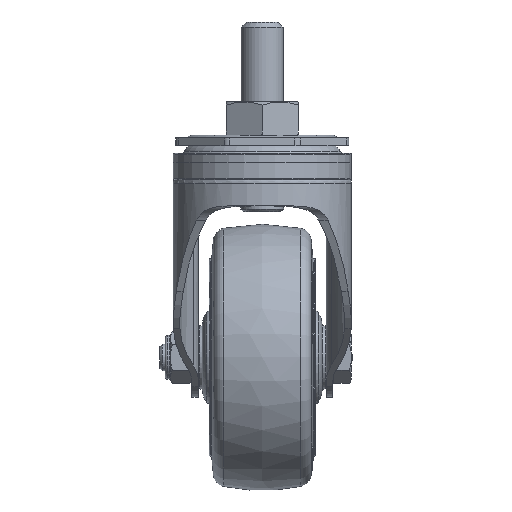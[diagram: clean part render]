
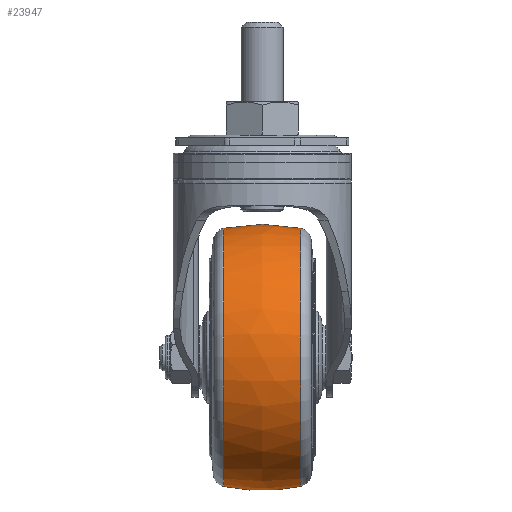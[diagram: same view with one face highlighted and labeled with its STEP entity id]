
A CAD part, left-side view. The second image highlights one B-rep face of the part: STEP entity #23947.
In plain terms, the highlighted free-form (B-spline) face has degree [2, 2] with [3, 9] control points.
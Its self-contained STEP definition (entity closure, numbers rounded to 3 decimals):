
#15=(
BOUNDED_SURFACE()
B_SPLINE_SURFACE(2,2,((#45535,#45536,#45537,#45538,#45539,#45540,#45541,
#45542,#45543),(#45544,#45545,#45546,#45547,#45548,#45549,#45550,#45551,
#45552),(#45553,#45554,#45555,#45556,#45557,#45558,#45559,#45560,#45561)),
 .UNSPECIFIED.,.F.,.T.,.F.)
B_SPLINE_SURFACE_WITH_KNOTS((3,3),(3,2,2,2,3),(-0.208,0.208),
(-3.142,-1.571,0.,1.571,3.142),
 .UNSPECIFIED.)
GEOMETRIC_REPRESENTATION_ITEM()
RATIONAL_B_SPLINE_SURFACE(((1.,0.707,1.,0.707,1.,
0.707,1.,0.707,1.),(0.978,0.692,
0.978,0.692,0.978,0.692,
0.978,0.692,0.978),(1.,0.707,
1.,0.707,1.,0.707,1.,0.707,1.)))
REPRESENTATION_ITEM('')
SURFACE()
);
#7104=FACE_OUTER_BOUND('',#8554,.T.);
#8554=EDGE_LOOP('',(#21907,#21908,#21909,#21910));
#8864=CIRCLE('',#25119,48.492);
#8883=CIRCLE('',#25147,48.492);
#8885=CIRCLE('',#25149,70.);
#11243=VERTEX_POINT('',#45485);
#11258=VERTEX_POINT('',#45532);
#14791=EDGE_CURVE('',#11243,#11243,#8864,.T.);
#14813=EDGE_CURVE('',#11258,#11258,#8883,.T.);
#14815=EDGE_CURVE('',#11243,#11258,#8885,.T.);
#21907=ORIENTED_EDGE('',*,*,#14791,.F.);
#21908=ORIENTED_EDGE('',*,*,#14815,.T.);
#21909=ORIENTED_EDGE('',*,*,#14813,.T.);
#21910=ORIENTED_EDGE('',*,*,#14815,.F.);
#23947=ADVANCED_FACE('',(#7104),#15,.F.);
#25119=AXIS2_PLACEMENT_3D('',#45487,#29188,#29189);
#25147=AXIS2_PLACEMENT_3D('',#45533,#29247,#29248);
#25149=AXIS2_PLACEMENT_3D('',#45562,#29251,#29252);
#29188=DIRECTION('center_axis',(0.,-1.,0.));
#29189=DIRECTION('ref_axis',(0.,0.,
1.));
#29247=DIRECTION('center_axis',(0.,-1.,0.));
#29248=DIRECTION('ref_axis',(0.,0.,
1.));
#29251=DIRECTION('center_axis',(1.,0.,0.));
#29252=DIRECTION('ref_axis',(0.,0.,
-1.));
#45485=CARTESIAN_POINT('',(36.,-14.451,-132.292));
#45487=CARTESIAN_POINT('Origin',(36.,-14.451,-83.8));
#45532=CARTESIAN_POINT('',(36.,14.451,-132.292));
#45533=CARTESIAN_POINT('Origin',(36.,14.451,-83.8));
#45535=CARTESIAN_POINT('Ctrl Pts',(36.,14.451,-132.292));
#45536=CARTESIAN_POINT('Ctrl Pts',(84.492,14.451,-132.292));
#45537=CARTESIAN_POINT('Ctrl Pts',(84.492,14.451,-83.8));
#45538=CARTESIAN_POINT('Ctrl Pts',(84.492,14.451,-35.308));
#45539=CARTESIAN_POINT('Ctrl Pts',(36.,14.451,-35.308));
#45540=CARTESIAN_POINT('Ctrl Pts',(-12.492,14.451,-35.308));
#45541=CARTESIAN_POINT('Ctrl Pts',(-12.492,14.451,-83.8));
#45542=CARTESIAN_POINT('Ctrl Pts',(-12.492,14.451,-132.292));
#45543=CARTESIAN_POINT('Ctrl Pts',(36.,14.451,-132.292));
#45544=CARTESIAN_POINT('Ctrl Pts',(36.,0.,
-135.341));
#45545=CARTESIAN_POINT('Ctrl Pts',(87.541,0.,
-135.341));
#45546=CARTESIAN_POINT('Ctrl Pts',(87.541,0.,
-83.8));
#45547=CARTESIAN_POINT('Ctrl Pts',(87.541,0.,
-32.259));
#45548=CARTESIAN_POINT('Ctrl Pts',(36.,0.,
-32.259));
#45549=CARTESIAN_POINT('Ctrl Pts',(-15.541,0.,
-32.259));
#45550=CARTESIAN_POINT('Ctrl Pts',(-15.541,0.,
-83.8));
#45551=CARTESIAN_POINT('Ctrl Pts',(-15.541,0.,
-135.341));
#45552=CARTESIAN_POINT('Ctrl Pts',(36.,0.,
-135.341));
#45553=CARTESIAN_POINT('Ctrl Pts',(36.,-14.451,-132.292));
#45554=CARTESIAN_POINT('Ctrl Pts',(84.492,-14.451,-132.292));
#45555=CARTESIAN_POINT('Ctrl Pts',(84.492,-14.451,-83.8));
#45556=CARTESIAN_POINT('Ctrl Pts',(84.492,-14.451,-35.308));
#45557=CARTESIAN_POINT('Ctrl Pts',(36.,-14.451,-35.308));
#45558=CARTESIAN_POINT('Ctrl Pts',(-12.492,-14.451,
-35.308));
#45559=CARTESIAN_POINT('Ctrl Pts',(-12.492,-14.451,
-83.8));
#45560=CARTESIAN_POINT('Ctrl Pts',(-12.492,-14.451,
-132.292));
#45561=CARTESIAN_POINT('Ctrl Pts',(36.,-14.451,-132.292));
#45562=CARTESIAN_POINT('Origin',(36.,0.,
-63.8));
